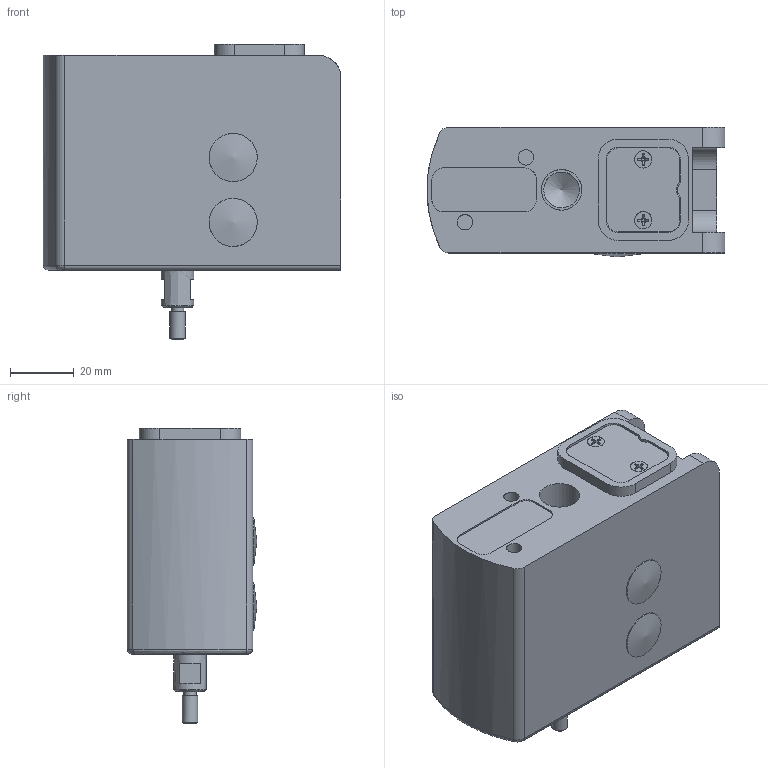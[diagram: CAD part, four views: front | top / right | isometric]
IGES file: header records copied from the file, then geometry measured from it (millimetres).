
Global section: file name: FS05_SENSOR; native system: Autodesk RealDWG; preprocessor: Autodesk Translation Framework DWG producer (atf_dwg_producer); organization: unknown; date: 20210208.144647; units: inch
Bounding box: 93.32 x 40.64 x 92.71 mm (x, y, z)
Volume: 236144.4 mm3; surface area: 27465.1 mm2
Topology: 1 solids, 3 shells, 158 faces, 408 edges, 277 vertices
Faces by surface type: bspline 158
